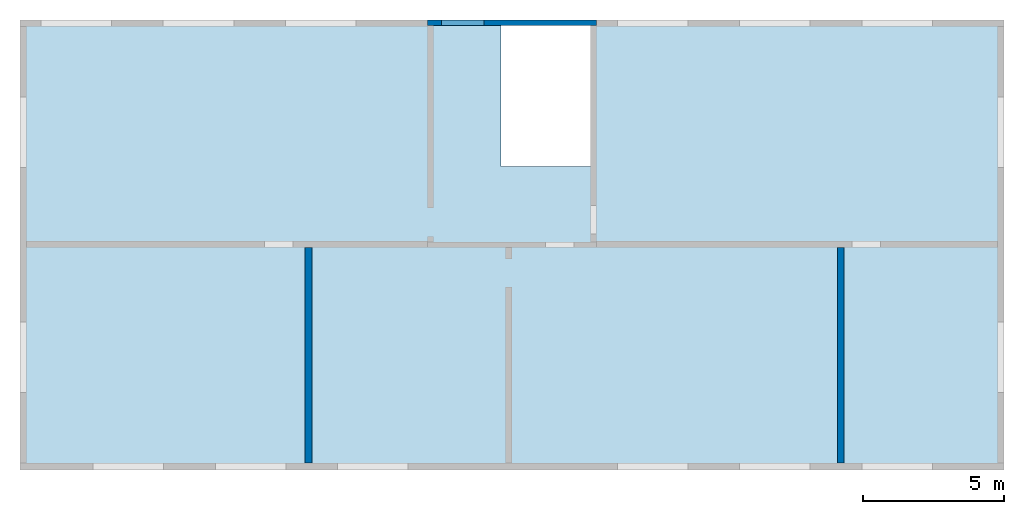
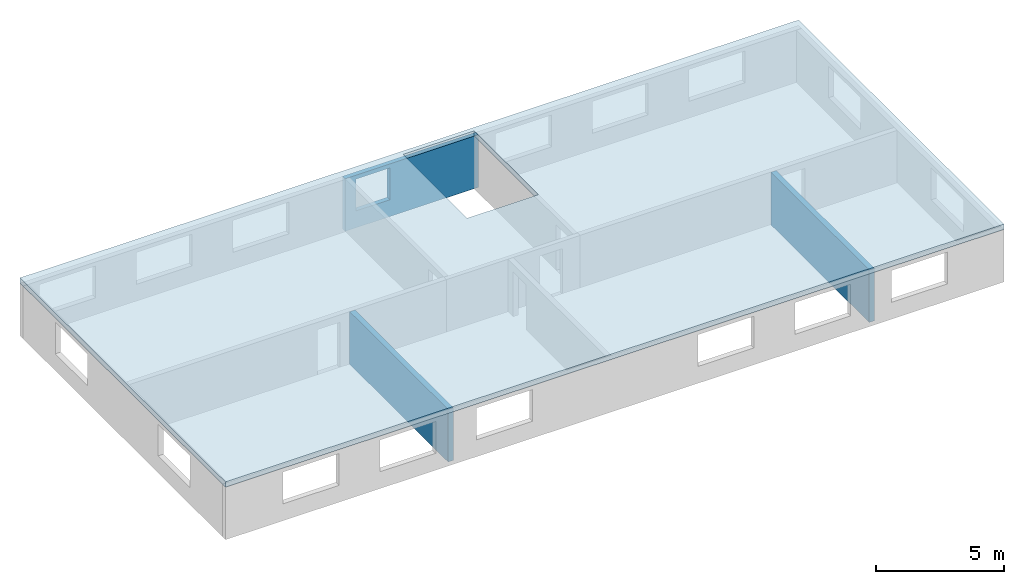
# One storey, incomplete: 3 walls, 1 slab, 2 openings.
"""IFC4 building model written with IfcOpenShell, lengths in metres."""

from ifc_helpers import new_model, entity, si_unit, converted_unit, frame, origin_with_axes, origin_2d_with_axis, place, context, subcontext, project, spatial, line, indexed_curve, outline, extrude, polygons, material, layer, layer_set, layer_usage, type_object, element, save


model = new_model("IFC4")

# Units and contexts
model_context = context("Model", 3, precision=1e-05, world=origin_with_axes())
plan_context = context("Plan", 2, precision=1e-05, world=origin_2d_with_axis())
body_context = subcontext(model_context, "Body", "Model", "MODEL_VIEW")
ifc_project = project(units=[converted_unit("PLANEANGLEUNIT", "degree", entity("IfcReal", 0.0174532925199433), si_unit("PLANEANGLEUNIT", "RADIAN"), dimensions=[0, 0, 0, 0, 0, 0, 0]), si_unit("AREAUNIT", "SQUARE_METRE"), si_unit("VOLUMEUNIT", "CUBIC_METRE"), si_unit("LENGTHUNIT", "METRE")], contexts=[model_context, plan_context])

# Site, building, storey
site_placement = place(None, origin_with_axes())
site = spatial("IfcSite", under=ifc_project, at=site_placement, Name="My Site")
building_placement = place(site_placement, origin_with_axes())
building = spatial("IfcBuilding", under=site, at=building_placement, Name="Werkhalle")
storey_placement = place(building_placement, frame((0.0, 0.0, 3.25), z_axis=(0.0, 0.0, 1.0), x_axis=(1.0, 0.0, 0.0)))
storey = spatial("IfcBuildingStorey", under=building, at=storey_placement, Name="03 Obergeschoss")

# Slab, opening
ifc_material_1 = material(Name="C 25/30", Category="Beton")
ifc_layer_1 = layer(ifc_material_1, 0.25)
ifc_layer_set_1 = layer_set([ifc_layer_1], Name="Beton 25 cm")
ifc_layer_usage_1 = layer_usage(ifc_layer_set_1, "AXIS3", "POSITIVE", 0.0)
slab_type = type_object("IfcSlabType", Name="Beton 25 cm", PredefinedType="FLOOR", material=ifc_layer_set_1)
slab_placement = place(storey_placement, frame((0.0, 0.0, 2.5), z_axis=(0.0, 0.0, 1.0), x_axis=(1.0, 0.0, 0.0)))
slab = element("IfcSlab", 1, at=slab_placement, inside=storey, type_object=slab_type, material=ifc_layer_usage_1, Name="Decke über OG", context=body_context, shape_type="SweptSolid", body=[
    extrude(outline(indexed_curve([(0.0, 0.0), (35.0, 0.0), (35.0, 16.0), (0.0, 16.0)], segments=[line(3, 2), line(2, 1), line(1, 4), line(4, 3)], self_intersect=False)), None, (0.0, 0.0, 1.0), 0.25),
])
opening_1_placement = place(slab_placement, frame((19.2003498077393, 13.2972583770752, -0.0470695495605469), z_axis=(0.0, 0.0, 1.0), x_axis=(1.0, 0.0, 0.0)))
element("IfcOpeningElement", 2, at=opening_1_placement, cuts=slab, Name="Würfel", context=body_context, shape_type="Tessellation", body=[
    polygons([(-2.09999990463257, -2.5, -1.0), (-2.09999990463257, 2.5, -1.0), (-2.09999990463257, -2.5, 1.0), (-2.09999990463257, 2.5, 1.0), (1.10000002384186, 2.5, -1.0), (1.10000002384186, 2.5, 1.0), (1.10000002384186, -2.5, -1.0), (1.10000002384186, -2.5, 1.0)], [[[1, 3, 4]], [[1, 4, 2]], [[6, 5, 2]], [[6, 2, 4]], [[8, 7, 5]], [[8, 5, 6]], [[7, 8, 3]], [[7, 3, 1]], [[2, 5, 7]], [[2, 7, 1]], [[6, 4, 3]], [[6, 3, 8]]]),
])

# Wall, opening
ifc_layer_2 = layer(ifc_material_1, 0.200000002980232)
ifc_layer_set_2 = layer_set([ifc_layer_2], Name="Beton 20 cm")
ifc_layer_usage_2 = layer_usage(ifc_layer_set_2, "AXIS2", "POSITIVE", 0.0)
wall_type_1 = type_object("IfcWallType", Name="Beton", PredefinedType="NOTDEFINED", material=ifc_layer_set_2)
wall_1_placement = place(storey_placement, frame((14.5, 15.8000001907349, 0.0), z_axis=(0.0, 0.0, 1.0), x_axis=(1.0, 0.0, 0.0)))
wall_1 = element("IfcWall", 3, at=wall_1_placement, inside=storey, type_object=wall_type_1, material=ifc_layer_usage_2, Name="Treppenhaus", context=body_context, shape_type="SweptSolid", body=[
    extrude(outline(indexed_curve([(0.0, 0.0), (0.0, 0.200000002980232), (6.0, 0.200000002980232), (6.0, 0.0), (0.0, 0.0)], self_intersect=False)), origin_with_axes(), (0.0, 0.0, 1.0), 2.5),
])
opening_2_placement = place(wall_1_placement, frame((1.25500011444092, 0.103764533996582, 1.55499982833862), z_axis=(0.0, 0.0, 1.0), x_axis=(1.0, 0.0, 0.0)))
element("IfcOpeningElement", 4, at=opening_2_placement, cuts=wall_1, Name="haustuer", context=body_context, shape_type="Tessellation", body=[
    polygons([(-0.754999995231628, -1.0, -0.754999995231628), (-0.754999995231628, 1.0, -0.754999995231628), (-0.754999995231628, -1.0, 0.754999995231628), (-0.754999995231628, 1.0, 0.754999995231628), (0.754999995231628, 1.0, -0.754999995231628), (0.754999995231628, 1.0, 0.754999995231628), (0.754999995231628, -1.0, -0.754999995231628), (0.754999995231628, -1.0, 0.754999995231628)], [[[1, 3, 4]], [[1, 4, 2]], [[6, 5, 2]], [[6, 2, 4]], [[8, 7, 5]], [[8, 5, 6]], [[7, 8, 3]], [[7, 3, 1]], [[2, 5, 7]], [[2, 7, 1]], [[6, 4, 3]], [[6, 3, 8]]]),
])

# Walls
ifc_material_2 = material(Name="Kalksandstein", Category="Mauerwerk")
ifc_layer_3 = layer(ifc_material_2, 0.239999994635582)
ifc_layer_set_3 = layer_set([ifc_layer_3], Name="Kalksand 24 cm")
ifc_layer_usage_3 = layer_usage(ifc_layer_set_3, "AXIS2", "POSITIVE", 0.0)
wall_type_2 = type_object("IfcWallType", Name="Kalksandstein", PredefinedType="STANDARD", material=ifc_layer_set_3)
wall_2_placement = place(storey_placement, frame((29.3173885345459, 0.240000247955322, 0.0), z_axis=(0.0, 0.0, 1.0), x_axis=(3.13916473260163e-07, 0.999999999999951, 0.0)))
element("IfcWall", 5, at=wall_2_placement, inside=storey, type_object=wall_type_2, material=ifc_layer_usage_3, Name="Wall", context=body_context, shape_type="SweptSolid", body=[
    extrude(outline(indexed_curve([(0.0, 0.0), (0.0, 0.239999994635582), (7.66000037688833, 0.239999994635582), (7.66000037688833, 0.0), (0.0, 0.0)], self_intersect=False)), origin_with_axes(), (0.0, 0.0, 1.0), 2.5),
])
ifc_layer_usage_4 = layer_usage(ifc_layer_set_3, "AXIS2", "POSITIVE", 0.0)
wall_3_placement = place(storey_placement, frame((10.3840026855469, 0.240000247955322, 0.0), z_axis=(0.0, 0.0, 1.0), x_axis=(3.13916473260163e-07, 0.999999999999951, 0.0)))
element("IfcWall", 6, at=wall_3_placement, inside=storey, type_object=wall_type_2, material=ifc_layer_usage_4, Name="Wall", context=body_context, shape_type="SweptSolid", body=[
    extrude(outline(indexed_curve([(0.0, 0.0), (0.0, 0.239999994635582), (7.66000037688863, 0.239999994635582), (7.66000037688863, 0.0), (0.0, 0.0)], self_intersect=False)), origin_with_axes(), (0.0, 0.0, 1.0), 2.5),
])

save(model, "model.ifc")
